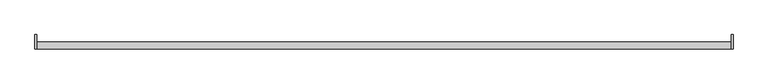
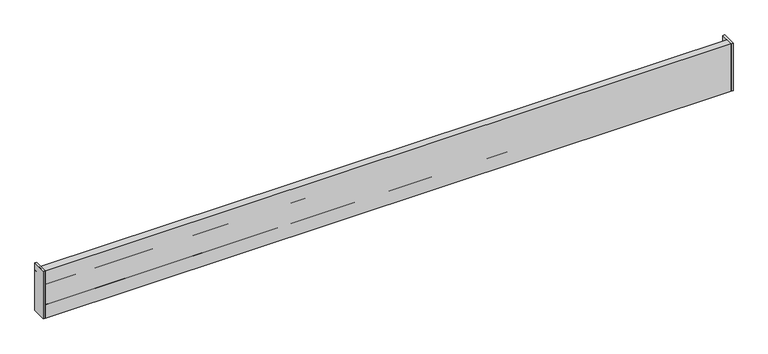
"""IFC4 building model written with IfcOpenShell, lengths in millimetres: furniture geometry."""

from ifc_helpers import new_model, si_unit, frame, origin, place, context, project, spatial, polyline, outline, extrude, source, transform, mapped, element, save


def furniture_cda7a09b(model_context):
    return source(origin(), model_context, "Body", "SweptSolid", [
        extrude(outline(polyline([(-606.425, 12.6999996), (-606.425, -12.7000004), (-609.6, -12.7000004), (-609.6, 12.6999996), (-606.425, 12.6999996)])), frame((0.0, 0.0, 819.15), z_axis=(0.0, 0.0, 1.0), x_axis=(1.0, 0.0, 0.0)), (0.0, 0.0, 1.0), 88.9),
        extrude(outline(polyline([(609.6, 12.6999996), (609.6, -12.7000004), (606.425, -12.7000004), (606.425, 12.6999996), (609.6, 12.6999996)])), frame((0.0, 0.0, 819.15), z_axis=(0.0, 0.0, 1.0), x_axis=(1.0, 0.0, 0.0)), (0.0, 0.0, 1.0), 88.9),
        extrude(outline(polyline([(606.425, 0.0), (606.425, -12.7000004), (-606.425, -12.7000004), (-606.425, 0.0), (606.425, 0.0)])), frame((0.0, 0.0, 819.15), z_axis=(0.0, 0.0, 1.0), x_axis=(1.0, 0.0, 0.0)), (0.0, 0.0, 1.0), 88.9),
        extrude(outline(polyline([(-12.7000004, 895.3499966), (-12.7000004, 908.05), (0.0, 908.05), (0.0, 819.15), (-12.7000004, 819.15), (-12.7000004, 844.5499966), (-3.1750002, 844.5499966), (-3.1750002, 857.2499966), (-12.7000004, 857.2499966), (-12.7000004, 882.6499966), (-3.1750002, 882.6499966), (-3.1750002, 895.3499966), (-12.7000004, 895.3499966)])), frame((-606.425, 0.0, 0.0), z_axis=(1.0, 0.0, 0.0), x_axis=(0.0, 1.0, 0.0)), (0.0, 0.0, 1.0), 1212.85),
        extrude(outline(polyline([(-12.7000004, 908.05), (0.0, 908.05), (0.0, 895.3499966), (12.6999996, 895.3499966), (12.6999996, 831.849997), (0.0, 831.849997), (0.0, 819.15), (-12.7000004, 819.15), (-12.7000004, 908.05)])), frame((-609.6, 0.0, 0.0), z_axis=(1.0, 0.0, 0.0), x_axis=(0.0, 1.0, 0.0)), (0.0, 0.0, 1.0), 3.175),
        extrude(outline(polyline([(-12.7000004, 908.05), (0.0, 908.05), (0.0, 895.3499966), (12.6999996, 895.3499966), (12.6999996, 831.849997), (0.0, 831.849997), (0.0, 819.15), (-12.7000004, 819.15), (-12.7000004, 908.05)])), frame((606.425, 0.0, 0.0), z_axis=(1.0, 0.0, 0.0), x_axis=(0.0, 1.0, 0.0)), (0.0, 0.0, 1.0), 3.175),
    ])


if __name__ == "__main__":
    model = new_model("IFC4")
    model_context = context("Model", 3, world=origin())
    ifc_project = project(units=[si_unit("LENGTHUNIT", "METRE", prefix="MILLI")], contexts=[model_context])
    site = spatial("IfcSite", under=ifc_project)
    building = spatial("IfcBuilding", under=site)
    placement = place(None, origin())
    furniture_shape = furniture_cda7a09b(model_context)
    element("IfcFurniture", 1, ObjectType="HermanMiller_ActionOffice_A3610_ToolBar : 4\"H x 48\"W", at=placement, inside=building, context=model_context, shape_type="MappedRepresentation", body=[
        mapped(furniture_shape, transform((0.0, 0.0, 0.0), x_axis=(1.0, 0.0, 0.0), y_axis=(0.0, 1.0, 0.0), z_axis=(0.0, 0.0, 1.0))),
    ])
    save(model, "model.ifc")
